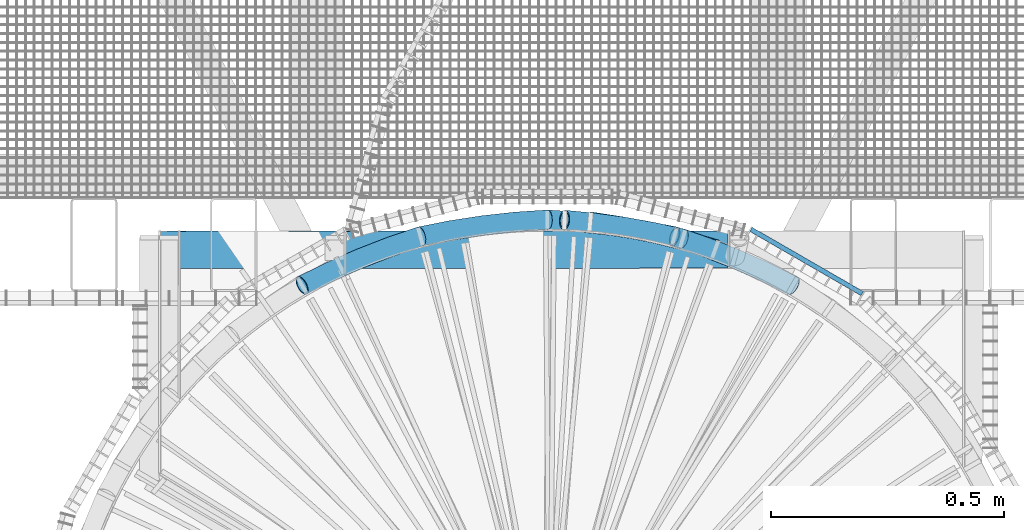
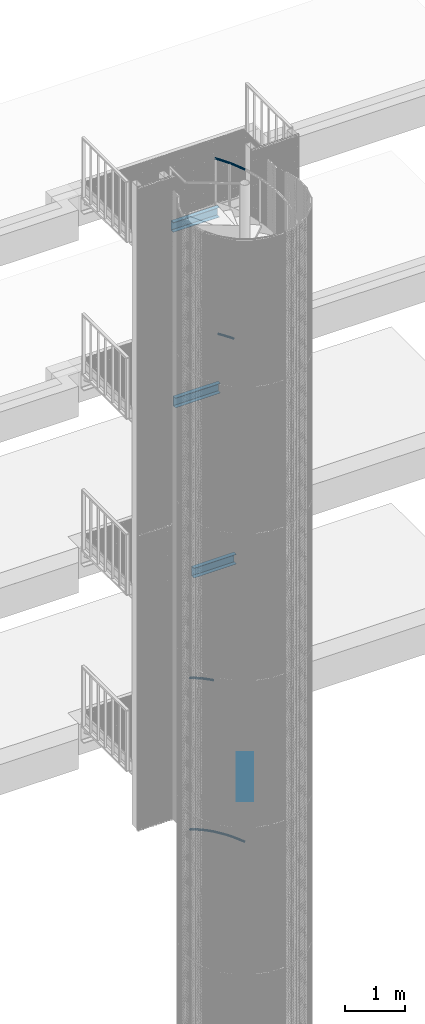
# One storey, part 318 of 1148: 37 beams, 9 members, 13 elements without a shape of their own.
"""IFC2X3 building model written with IfcOpenShell, lengths in millimetres."""

from ifc_helpers import new_model, entity, si_unit, frame, origin_with_axes, origin_2d_with_axis, place, context, subcontext, project, spatial, rectangle, u_section, extrude, material, type_object, element, aggregate, save


model = new_model("IFC2X3")

# Units and contexts
model_context = context("Model", 3, precision=1e-05, world=origin_with_axes())
body_context = subcontext(model_context, "Body", "Model", "MODEL_VIEW")
ifc_project = project(units=[si_unit("LENGTHUNIT", "METRE", prefix="MILLI"), si_unit("AREAUNIT", "SQUARE_METRE"), si_unit("VOLUMEUNIT", "CUBIC_METRE"), si_unit("MASSUNIT", "GRAM", prefix="KILO"), si_unit("TIMEUNIT", "SECOND"), si_unit("PLANEANGLEUNIT", "RADIAN"), si_unit("SOLIDANGLEUNIT", "STERADIAN"), si_unit("THERMODYNAMICTEMPERATUREUNIT", "DEGREE_CELSIUS"), si_unit("LUMINOUSINTENSITYUNIT", "LUMEN")], contexts=[model_context])

# Site, building, storey
site_placement = place(None, origin_with_axes())
site = spatial("IfcSite", under=ifc_project, at=site_placement, Name="Undefined", CompositionType="ELEMENT")
building_placement = place(site_placement, origin_with_axes())
building = spatial("IfcBuilding", under=site, at=building_placement, Name="Undefined", CompositionType="ELEMENT")
storey_placement = place(building_placement, origin_with_axes())
storey = spatial("IfcBuildingStorey", under=building, at=storey_placement, Name="Undefined", CompositionType="ELEMENT", Elevation=0.0)

# Assembly, beams
assembly_1_placement = place(storey_placement, origin_with_axes())
assembly_1 = element("IfcElementAssembly", 1, at=assembly_1_placement, inside=storey, Name="BORDURE", AssemblyPlace="NOTDEFINED", PredefinedType="NOTDEFINED")
ifc_material_1 = material(Name="STEEL/S235JR")
beam_type_1 = type_object("IfcBeamType", Name="PL2*10", PredefinedType="NOTDEFINED")
beam_1_placement = place(assembly_1_placement, frame((676.248044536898, 895.303964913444, 5970.0), z_axis=(0.49999999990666, 0.866025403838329, 0.0), x_axis=(-0.866025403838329, 0.499999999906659, 0.0)))
beam_1 = element("IfcBeam", 2, at=beam_1_placement, type_object=beam_type_1, material=ifc_material_1, Name="ENTRETOISE", context=body_context, shape_type="SweptSolid", body=[
    extrude(rectangle(XDim=2.0, YDim=10.0, at=origin_2d_with_axis()), frame((275.999999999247, 9.09494701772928e-13, 1.53210777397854e-14), z_axis=(-1.0, 0.0, 0.0), x_axis=(0.0, -1.0, 0.0)), (0.0, 0.0, 1.0), 276.0),
])
beam_2_placement = place(assembly_1_placement, frame((676.248044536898, 895.303964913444, 5940.0), z_axis=(0.49999999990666, 0.866025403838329, 0.0), x_axis=(-0.866025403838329, 0.499999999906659, 0.0)))
beam_2 = element("IfcBeam", 3, at=beam_2_placement, type_object=beam_type_1, material=ifc_material_1, Name="ENTRETOISE", context=body_context, shape_type="SweptSolid", body=[
    extrude(rectangle(XDim=2.0, YDim=10.0, at=origin_2d_with_axis()), frame((275.999999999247, 9.09494701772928e-13, 1.53210777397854e-14), z_axis=(-1.0, 0.0, 0.0), x_axis=(0.0, -1.0, 0.0)), (0.0, 0.0, 1.0), 276.0),
])
beam_3_placement = place(assembly_1_placement, frame((676.248044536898, 895.303964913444, 5910.0), z_axis=(0.49999999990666, 0.866025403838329, 0.0), x_axis=(-0.866025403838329, 0.499999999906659, 0.0)))
beam_3 = element("IfcBeam", 4, at=beam_3_placement, type_object=beam_type_1, material=ifc_material_1, Name="ENTRETOISE", context=body_context, shape_type="SweptSolid", body=[
    extrude(rectangle(XDim=2.0, YDim=10.0, at=origin_2d_with_axis()), frame((275.999999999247, 9.09494701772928e-13, 1.53210777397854e-14), z_axis=(-1.0, 0.0, 0.0), x_axis=(0.0, -1.0, 0.0)), (0.0, 0.0, 1.0), 276.0),
])
beam_4_placement = place(assembly_1_placement, frame((676.248044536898, 895.303964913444, 5880.0), z_axis=(0.49999999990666, 0.866025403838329, 0.0), x_axis=(-0.866025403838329, 0.499999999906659, 0.0)))
beam_4 = element("IfcBeam", 5, at=beam_4_placement, type_object=beam_type_1, material=ifc_material_1, Name="ENTRETOISE", context=body_context, shape_type="SweptSolid", body=[
    extrude(rectangle(XDim=2.0, YDim=10.0, at=origin_2d_with_axis()), frame((275.999999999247, 9.09494701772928e-13, 1.53210777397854e-14), z_axis=(-1.0, 0.0, 0.0), x_axis=(0.0, -1.0, 0.0)), (0.0, 0.0, 1.0), 276.0),
])
beam_5_placement = place(assembly_1_placement, frame((676.248044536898, 895.303964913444, 5850.0), z_axis=(0.49999999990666, 0.866025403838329, 0.0), x_axis=(-0.866025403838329, 0.499999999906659, 0.0)))
beam_5 = element("IfcBeam", 6, at=beam_5_placement, type_object=beam_type_1, material=ifc_material_1, Name="ENTRETOISE", context=body_context, shape_type="SweptSolid", body=[
    extrude(rectangle(XDim=2.0, YDim=10.0, at=origin_2d_with_axis()), frame((275.999999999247, 9.09494701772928e-13, 1.53210777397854e-14), z_axis=(-1.0, 0.0, 0.0), x_axis=(0.0, -1.0, 0.0)), (0.0, 0.0, 1.0), 276.0),
])
beam_6_placement = place(assembly_1_placement, frame((676.248044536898, 895.303964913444, 5820.0), z_axis=(0.49999999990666, 0.866025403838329, 0.0), x_axis=(-0.866025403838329, 0.499999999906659, 0.0)))
beam_6 = element("IfcBeam", 7, at=beam_6_placement, type_object=beam_type_1, material=ifc_material_1, Name="ENTRETOISE", context=body_context, shape_type="SweptSolid", body=[
    extrude(rectangle(XDim=2.0, YDim=10.0, at=origin_2d_with_axis()), frame((275.999999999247, 9.09494701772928e-13, 1.53210777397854e-14), z_axis=(-1.0, 0.0, 0.0), x_axis=(0.0, -1.0, 0.0)), (0.0, 0.0, 1.0), 276.0),
])
beam_7_placement = place(assembly_1_placement, frame((676.248044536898, 895.303964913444, 5790.0), z_axis=(0.49999999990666, 0.866025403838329, 0.0), x_axis=(-0.866025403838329, 0.499999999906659, 0.0)))
beam_7 = element("IfcBeam", 8, at=beam_7_placement, type_object=beam_type_1, material=ifc_material_1, Name="ENTRETOISE", context=body_context, shape_type="SweptSolid", body=[
    extrude(rectangle(XDim=2.0, YDim=10.0, at=origin_2d_with_axis()), frame((275.999999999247, 9.09494701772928e-13, 1.53210777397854e-14), z_axis=(-1.0, 0.0, 0.0), x_axis=(0.0, -1.0, 0.0)), (0.0, 0.0, 1.0), 276.0),
])
beam_8_placement = place(assembly_1_placement, frame((676.248044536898, 895.303964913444, 5760.0), z_axis=(0.49999999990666, 0.866025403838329, 0.0), x_axis=(-0.866025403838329, 0.499999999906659, 0.0)))
beam_8 = element("IfcBeam", 9, at=beam_8_placement, type_object=beam_type_1, material=ifc_material_1, Name="ENTRETOISE", context=body_context, shape_type="SweptSolid", body=[
    extrude(rectangle(XDim=2.0, YDim=10.0, at=origin_2d_with_axis()), frame((275.999999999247, 9.09494701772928e-13, 1.53210777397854e-14), z_axis=(-1.0, 0.0, 0.0), x_axis=(0.0, -1.0, 0.0)), (0.0, 0.0, 1.0), 276.0),
])
beam_9_placement = place(assembly_1_placement, frame((676.248044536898, 895.303964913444, 5730.0), z_axis=(0.49999999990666, 0.866025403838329, 0.0), x_axis=(-0.866025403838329, 0.499999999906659, 0.0)))
beam_9 = element("IfcBeam", 10, at=beam_9_placement, type_object=beam_type_1, material=ifc_material_1, Name="ENTRETOISE", context=body_context, shape_type="SweptSolid", body=[
    extrude(rectangle(XDim=2.0, YDim=10.0, at=origin_2d_with_axis()), frame((275.999999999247, 9.09494701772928e-13, 1.53210777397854e-14), z_axis=(-1.0, 0.0, 0.0), x_axis=(0.0, -1.0, 0.0)), (0.0, 0.0, 1.0), 276.0),
])
beam_10_placement = place(assembly_1_placement, frame((676.248044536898, 895.303964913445, 5700.0), z_axis=(0.49999999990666, 0.866025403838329, 0.0), x_axis=(-0.866025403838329, 0.499999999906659, 0.0)))
beam_10 = element("IfcBeam", 11, at=beam_10_placement, type_object=beam_type_1, material=ifc_material_1, Name="ENTRETOISE", context=body_context, shape_type="SweptSolid", body=[
    extrude(rectangle(XDim=2.0, YDim=10.0, at=origin_2d_with_axis()), frame((275.999999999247, 9.09494701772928e-13, 1.53210777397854e-14), z_axis=(-1.0, 0.0, 0.0), x_axis=(0.0, -1.0, 0.0)), (0.0, 0.0, 1.0), 276.0),
])
beam_11_placement = place(assembly_1_placement, frame((676.248044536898, 895.303964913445, 5670.0), z_axis=(0.49999999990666, 0.866025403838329, 0.0), x_axis=(-0.866025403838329, 0.499999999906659, 0.0)))
beam_11 = element("IfcBeam", 12, at=beam_11_placement, type_object=beam_type_1, material=ifc_material_1, Name="ENTRETOISE", context=body_context, shape_type="SweptSolid", body=[
    extrude(rectangle(XDim=2.0, YDim=10.0, at=origin_2d_with_axis()), frame((275.999999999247, 9.09494701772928e-13, 1.53210777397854e-14), z_axis=(-1.0, 0.0, 0.0), x_axis=(0.0, -1.0, 0.0)), (0.0, 0.0, 1.0), 276.0),
])
beam_12_placement = place(assembly_1_placement, frame((676.248044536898, 895.303964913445, 5640.0), z_axis=(0.49999999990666, 0.866025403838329, 0.0), x_axis=(-0.866025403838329, 0.499999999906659, 0.0)))
beam_12 = element("IfcBeam", 13, at=beam_12_placement, type_object=beam_type_1, material=ifc_material_1, Name="ENTRETOISE", context=body_context, shape_type="SweptSolid", body=[
    extrude(rectangle(XDim=2.0, YDim=10.0, at=origin_2d_with_axis()), frame((275.999999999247, 9.09494701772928e-13, 1.53210777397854e-14), z_axis=(-1.0, 0.0, 0.0), x_axis=(0.0, -1.0, 0.0)), (0.0, 0.0, 1.0), 276.0),
])
beam_13_placement = place(assembly_1_placement, frame((676.248044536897, 895.303964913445, 5610.0), z_axis=(0.49999999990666, 0.866025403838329, 0.0), x_axis=(-0.866025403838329, 0.499999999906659, 0.0)))
beam_13 = element("IfcBeam", 14, at=beam_13_placement, type_object=beam_type_1, material=ifc_material_1, Name="ENTRETOISE", context=body_context, shape_type="SweptSolid", body=[
    extrude(rectangle(XDim=2.0, YDim=10.0, at=origin_2d_with_axis()), frame((275.999999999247, 9.09494701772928e-13, 1.53210777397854e-14), z_axis=(-1.0, 0.0, 0.0), x_axis=(0.0, -1.0, 0.0)), (0.0, 0.0, 1.0), 276.0),
])
beam_14_placement = place(assembly_1_placement, frame((676.248044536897, 895.303964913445, 5580.0), z_axis=(0.49999999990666, 0.866025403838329, 0.0), x_axis=(-0.866025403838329, 0.499999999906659, 0.0)))
beam_14 = element("IfcBeam", 15, at=beam_14_placement, type_object=beam_type_1, material=ifc_material_1, Name="ENTRETOISE", context=body_context, shape_type="SweptSolid", body=[
    extrude(rectangle(XDim=2.0, YDim=10.0, at=origin_2d_with_axis()), frame((275.999999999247, 9.09494701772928e-13, 1.53210777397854e-14), z_axis=(-1.0, 0.0, 0.0), x_axis=(0.0, -1.0, 0.0)), (0.0, 0.0, 1.0), 276.0),
])
beam_15_placement = place(assembly_1_placement, frame((676.248044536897, 895.303964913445, 5550.0), z_axis=(0.49999999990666, 0.866025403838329, 0.0), x_axis=(-0.866025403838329, 0.499999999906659, 0.0)))
beam_15 = element("IfcBeam", 16, at=beam_15_placement, type_object=beam_type_1, material=ifc_material_1, Name="ENTRETOISE", context=body_context, shape_type="SweptSolid", body=[
    extrude(rectangle(XDim=2.0, YDim=10.0, at=origin_2d_with_axis()), frame((275.999999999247, 9.09494701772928e-13, 1.53210777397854e-14), z_axis=(-1.0, 0.0, 0.0), x_axis=(0.0, -1.0, 0.0)), (0.0, 0.0, 1.0), 276.0),
])
beam_16_placement = place(assembly_1_placement, frame((676.248044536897, 895.303964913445, 5520.0), z_axis=(0.49999999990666, 0.866025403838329, 0.0), x_axis=(-0.866025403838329, 0.499999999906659, 0.0)))
beam_16 = element("IfcBeam", 17, at=beam_16_placement, type_object=beam_type_1, material=ifc_material_1, Name="ENTRETOISE", context=body_context, shape_type="SweptSolid", body=[
    extrude(rectangle(XDim=2.0, YDim=10.0, at=origin_2d_with_axis()), frame((275.999999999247, 9.09494701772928e-13, 1.53210777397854e-14), z_axis=(-1.0, 0.0, 0.0), x_axis=(0.0, -1.0, 0.0)), (0.0, 0.0, 1.0), 276.0),
])
beam_17_placement = place(assembly_1_placement, frame((676.248044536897, 895.303964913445, 5490.0), z_axis=(0.49999999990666, 0.866025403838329, 0.0), x_axis=(-0.866025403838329, 0.499999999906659, 0.0)))
beam_17 = element("IfcBeam", 18, at=beam_17_placement, type_object=beam_type_1, material=ifc_material_1, Name="ENTRETOISE", context=body_context, shape_type="SweptSolid", body=[
    extrude(rectangle(XDim=2.0, YDim=10.0, at=origin_2d_with_axis()), frame((275.999999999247, 9.09494701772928e-13, 1.53210777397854e-14), z_axis=(-1.0, 0.0, 0.0), x_axis=(0.0, -1.0, 0.0)), (0.0, 0.0, 1.0), 276.0),
])
beam_18_placement = place(assembly_1_placement, frame((676.248044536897, 895.303964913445, 5460.0), z_axis=(0.49999999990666, 0.866025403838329, 0.0), x_axis=(-0.866025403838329, 0.499999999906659, 0.0)))
beam_18 = element("IfcBeam", 19, at=beam_18_placement, type_object=beam_type_1, material=ifc_material_1, Name="ENTRETOISE", context=body_context, shape_type="SweptSolid", body=[
    extrude(rectangle(XDim=2.0, YDim=10.0, at=origin_2d_with_axis()), frame((275.999999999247, 9.09494701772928e-13, 1.53210777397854e-14), z_axis=(-1.0, 0.0, 0.0), x_axis=(0.0, -1.0, 0.0)), (0.0, 0.0, 1.0), 276.0),
])
beam_19_placement = place(assembly_1_placement, frame((676.248044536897, 895.303964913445, 5430.0), z_axis=(0.49999999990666, 0.866025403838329, 0.0), x_axis=(-0.866025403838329, 0.499999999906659, 0.0)))
beam_19 = element("IfcBeam", 20, at=beam_19_placement, type_object=beam_type_1, material=ifc_material_1, Name="ENTRETOISE", context=body_context, shape_type="SweptSolid", body=[
    extrude(rectangle(XDim=2.0, YDim=10.0, at=origin_2d_with_axis()), frame((275.999999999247, 9.09494701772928e-13, 1.53210777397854e-14), z_axis=(-1.0, 0.0, 0.0), x_axis=(0.0, -1.0, 0.0)), (0.0, 0.0, 1.0), 276.0),
])
beam_20_placement = place(assembly_1_placement, frame((676.248044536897, 895.303964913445, 5400.0), z_axis=(0.49999999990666, 0.866025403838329, 0.0), x_axis=(-0.866025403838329, 0.499999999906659, 0.0)))
beam_20 = element("IfcBeam", 21, at=beam_20_placement, type_object=beam_type_1, material=ifc_material_1, Name="ENTRETOISE", context=body_context, shape_type="SweptSolid", body=[
    extrude(rectangle(XDim=2.0, YDim=10.0, at=origin_2d_with_axis()), frame((275.999999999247, 9.09494701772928e-13, 1.53210777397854e-14), z_axis=(-1.0, 0.0, 0.0), x_axis=(0.0, -1.0, 0.0)), (0.0, 0.0, 1.0), 276.0),
])
beam_21_placement = place(assembly_1_placement, frame((676.248044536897, 895.303964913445, 5370.0), z_axis=(0.49999999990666, 0.866025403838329, 0.0), x_axis=(-0.866025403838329, 0.499999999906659, 0.0)))
beam_21 = element("IfcBeam", 22, at=beam_21_placement, type_object=beam_type_1, material=ifc_material_1, Name="ENTRETOISE", context=body_context, shape_type="SweptSolid", body=[
    extrude(rectangle(XDim=2.0, YDim=10.0, at=origin_2d_with_axis()), frame((275.999999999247, 9.09494701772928e-13, 1.53210777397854e-14), z_axis=(-1.0, 0.0, 0.0), x_axis=(0.0, -1.0, 0.0)), (0.0, 0.0, 1.0), 276.0),
])
beam_22_placement = place(assembly_1_placement, frame((676.248044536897, 895.303964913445, 5340.0), z_axis=(0.49999999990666, 0.866025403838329, 0.0), x_axis=(-0.866025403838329, 0.499999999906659, 0.0)))
beam_22 = element("IfcBeam", 23, at=beam_22_placement, type_object=beam_type_1, material=ifc_material_1, Name="ENTRETOISE", context=body_context, shape_type="SweptSolid", body=[
    extrude(rectangle(XDim=2.0, YDim=10.0, at=origin_2d_with_axis()), frame((275.999999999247, 9.09494701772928e-13, 1.53210777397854e-14), z_axis=(-1.0, 0.0, 0.0), x_axis=(0.0, -1.0, 0.0)), (0.0, 0.0, 1.0), 276.0),
])
beam_23_placement = place(assembly_1_placement, frame((676.248044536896, 895.303964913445, 5310.0), z_axis=(0.49999999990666, 0.866025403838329, 0.0), x_axis=(-0.866025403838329, 0.499999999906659, 0.0)))
beam_23 = element("IfcBeam", 24, at=beam_23_placement, type_object=beam_type_1, material=ifc_material_1, Name="ENTRETOISE", context=body_context, shape_type="SweptSolid", body=[
    extrude(rectangle(XDim=2.0, YDim=10.0, at=origin_2d_with_axis()), frame((275.999999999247, 9.09494701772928e-13, 1.53210777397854e-14), z_axis=(-1.0, 0.0, 0.0), x_axis=(0.0, -1.0, 0.0)), (0.0, 0.0, 1.0), 276.0),
])
beam_24_placement = place(assembly_1_placement, frame((676.248044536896, 895.303964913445, 5280.0), z_axis=(0.49999999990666, 0.866025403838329, 0.0), x_axis=(-0.866025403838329, 0.499999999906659, 0.0)))
beam_24 = element("IfcBeam", 25, at=beam_24_placement, type_object=beam_type_1, material=ifc_material_1, Name="ENTRETOISE", context=body_context, shape_type="SweptSolid", body=[
    extrude(rectangle(XDim=2.0, YDim=10.0, at=origin_2d_with_axis()), frame((275.999999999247, 9.09494701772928e-13, 1.53210777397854e-14), z_axis=(-1.0, 0.0, 0.0), x_axis=(0.0, -1.0, 0.0)), (0.0, 0.0, 1.0), 276.0),
])
beam_25_placement = place(assembly_1_placement, frame((676.248044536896, 895.303964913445, 5250.0), z_axis=(0.49999999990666, 0.866025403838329, 0.0), x_axis=(-0.866025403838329, 0.499999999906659, 0.0)))
beam_25 = element("IfcBeam", 26, at=beam_25_placement, type_object=beam_type_1, material=ifc_material_1, Name="ENTRETOISE", context=body_context, shape_type="SweptSolid", body=[
    extrude(rectangle(XDim=2.0, YDim=10.0, at=origin_2d_with_axis()), frame((275.999999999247, 9.09494701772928e-13, 1.53210777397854e-14), z_axis=(-1.0, 0.0, 0.0), x_axis=(0.0, -1.0, 0.0)), (0.0, 0.0, 1.0), 276.0),
])
beam_26_placement = place(assembly_1_placement, frame((676.248044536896, 895.303964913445, 5220.0), z_axis=(0.49999999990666, 0.866025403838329, 0.0), x_axis=(-0.866025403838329, 0.499999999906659, 0.0)))
beam_26 = element("IfcBeam", 27, at=beam_26_placement, type_object=beam_type_1, material=ifc_material_1, Name="ENTRETOISE", context=body_context, shape_type="SweptSolid", body=[
    extrude(rectangle(XDim=2.0, YDim=10.0, at=origin_2d_with_axis()), frame((275.999999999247, 9.09494701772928e-13, 1.53210777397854e-14), z_axis=(-1.0, 0.0, 0.0), x_axis=(0.0, -1.0, 0.0)), (0.0, 0.0, 1.0), 276.0),
])
beam_27_placement = place(assembly_1_placement, frame((676.248044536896, 895.303964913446, 5190.0), z_axis=(0.49999999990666, 0.866025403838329, 0.0), x_axis=(-0.866025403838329, 0.499999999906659, 0.0)))
beam_27 = element("IfcBeam", 28, at=beam_27_placement, type_object=beam_type_1, material=ifc_material_1, Name="ENTRETOISE", context=body_context, shape_type="SweptSolid", body=[
    extrude(rectangle(XDim=2.0, YDim=10.0, at=origin_2d_with_axis()), frame((275.999999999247, 9.09494701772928e-13, 1.53210777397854e-14), z_axis=(-1.0, 0.0, 0.0), x_axis=(0.0, -1.0, 0.0)), (0.0, 0.0, 1.0), 276.0),
])
beam_28_placement = place(assembly_1_placement, frame((676.248044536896, 895.303964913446, 5160.0), z_axis=(0.49999999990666, 0.866025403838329, 0.0), x_axis=(-0.866025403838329, 0.499999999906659, 0.0)))
beam_28 = element("IfcBeam", 29, at=beam_28_placement, type_object=beam_type_1, material=ifc_material_1, Name="ENTRETOISE", context=body_context, shape_type="SweptSolid", body=[
    extrude(rectangle(XDim=2.0, YDim=10.0, at=origin_2d_with_axis()), frame((275.999999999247, 9.09494701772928e-13, 1.53210777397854e-14), z_axis=(-1.0, 0.0, 0.0), x_axis=(0.0, -1.0, 0.0)), (0.0, 0.0, 1.0), 276.0),
])
beam_29_placement = place(assembly_1_placement, frame((676.248044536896, 895.303964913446, 5130.0), z_axis=(0.49999999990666, 0.866025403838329, 0.0), x_axis=(-0.866025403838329, 0.499999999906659, 0.0)))
beam_29 = element("IfcBeam", 30, at=beam_29_placement, type_object=beam_type_1, material=ifc_material_1, Name="ENTRETOISE", context=body_context, shape_type="SweptSolid", body=[
    extrude(rectangle(XDim=2.0, YDim=10.0, at=origin_2d_with_axis()), frame((275.999999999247, 9.09494701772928e-13, 1.53210777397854e-14), z_axis=(-1.0, 0.0, 0.0), x_axis=(0.0, -1.0, 0.0)), (0.0, 0.0, 1.0), 276.0),
])
beam_30_placement = place(assembly_1_placement, frame((676.248044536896, 895.303964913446, 5100.0), z_axis=(0.49999999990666, 0.866025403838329, 0.0), x_axis=(-0.866025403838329, 0.499999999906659, 0.0)))
beam_30 = element("IfcBeam", 31, at=beam_30_placement, type_object=beam_type_1, material=ifc_material_1, Name="ENTRETOISE", context=body_context, shape_type="SweptSolid", body=[
    extrude(rectangle(XDim=2.0, YDim=10.0, at=origin_2d_with_axis()), frame((275.999999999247, 9.09494701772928e-13, 1.53210777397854e-14), z_axis=(-1.0, 0.0, 0.0), x_axis=(0.0, -1.0, 0.0)), (0.0, 0.0, 1.0), 276.0),
])
beam_31_placement = place(assembly_1_placement, frame((676.248044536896, 895.303964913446, 5070.0), z_axis=(0.49999999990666, 0.866025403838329, 0.0), x_axis=(-0.866025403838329, 0.499999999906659, 0.0)))
beam_31 = element("IfcBeam", 32, at=beam_31_placement, type_object=beam_type_1, material=ifc_material_1, Name="ENTRETOISE", context=body_context, shape_type="SweptSolid", body=[
    extrude(rectangle(XDim=2.0, YDim=10.0, at=origin_2d_with_axis()), frame((275.999999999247, 9.09494701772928e-13, 1.53210777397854e-14), z_axis=(-1.0, 0.0, 0.0), x_axis=(0.0, -1.0, 0.0)), (0.0, 0.0, 1.0), 276.0),
])
beam_32_placement = place(assembly_1_placement, frame((676.248044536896, 895.303964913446, 5040.0), z_axis=(0.49999999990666, 0.866025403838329, 0.0), x_axis=(-0.866025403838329, 0.499999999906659, 0.0)))
beam_32 = element("IfcBeam", 33, at=beam_32_placement, type_object=beam_type_1, material=ifc_material_1, Name="ENTRETOISE", context=body_context, shape_type="SweptSolid", body=[
    extrude(rectangle(XDim=2.0, YDim=10.0, at=origin_2d_with_axis()), frame((275.999999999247, 9.09494701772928e-13, 1.53210777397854e-14), z_axis=(-1.0, 0.0, 0.0), x_axis=(0.0, -1.0, 0.0)), (0.0, 0.0, 1.0), 276.0),
])
beam_33_placement = place(assembly_1_placement, frame((676.248044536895, 895.303964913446, 5010.0), z_axis=(0.49999999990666, 0.866025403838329, 0.0), x_axis=(-0.866025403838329, 0.499999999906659, 0.0)))
beam_33 = element("IfcBeam", 34, at=beam_33_placement, type_object=beam_type_1, material=ifc_material_1, Name="ENTRETOISE", context=body_context, shape_type="SweptSolid", body=[
    extrude(rectangle(XDim=2.0, YDim=10.0, at=origin_2d_with_axis()), frame((275.999999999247, 9.09494701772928e-13, 1.53210777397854e-14), z_axis=(-1.0, 0.0, 0.0), x_axis=(0.0, -1.0, 0.0)), (0.0, 0.0, 1.0), 276.0),
])
beam_34_placement = place(assembly_1_placement, frame((676.248044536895, 895.303964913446, 4980.0), z_axis=(0.49999999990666, 0.866025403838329, 0.0), x_axis=(-0.866025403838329, 0.499999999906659, 0.0)))
beam_34 = element("IfcBeam", 35, at=beam_34_placement, type_object=beam_type_1, material=ifc_material_1, Name="ENTRETOISE", context=body_context, shape_type="SweptSolid", body=[
    extrude(rectangle(XDim=2.0, YDim=10.0, at=origin_2d_with_axis()), frame((275.999999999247, 9.09494701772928e-13, 1.53210777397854e-14), z_axis=(-1.0, 0.0, 0.0), x_axis=(0.0, -1.0, 0.0)), (0.0, 0.0, 1.0), 276.0),
])
aggregate(assembly_1, [beam_1, beam_2, beam_3, beam_4, beam_5, beam_6, beam_7, beam_8, beam_9, beam_10, beam_11, beam_12, beam_13, beam_14, beam_15, beam_16, beam_17, beam_18, beam_19, beam_20, beam_21, beam_22, beam_23, beam_24, beam_25, beam_26, beam_27, beam_28, beam_29, beam_30, beam_31, beam_32, beam_33, beam_34])

# Assembly, member
assembly_2_placement = place(storey_placement, origin_with_axes())
assembly_2 = element("IfcElementAssembly", 36, at=assembly_2_placement, inside=storey, Name="MONTANT", AssemblyPlace="NOTDEFINED", PredefinedType="NOTDEFINED")
member_type = type_object("IfcMemberType", Name="TUBE-42.4*3.2", PredefinedType="NOTDEFINED")
member_1_placement = place(assembly_2_placement, frame((-272.795273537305, 1018.08582090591, 4653.96000000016), z_axis=(-0.382683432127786, 0.923879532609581, -1.50204414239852e-10), x_axis=(-0.805545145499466, -0.333667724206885, 0.489655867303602)))
member_1 = element("IfcMember", 37, at=member_1_placement, type_object=member_type, material=ifc_material_1, Name="MAIN_COURANTE", context=body_context, shape_type="SweptSolid", body=[
    entity("IfcRevolvedAreaSolid", entity("IfcCircleHollowProfileDef", "AREA", None, entity("IfcAxis2Placement2D", entity("IfcCartesianPoint", [0.0, 0.0]), entity("IfcDirection", [1.0, 0.0])), 21.200000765, 3.200000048), entity("IfcAxis2Placement3D", entity("IfcCartesianPoint", [315.568566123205, -9.09494701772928e-13, -1.31255851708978e-15]), entity("IfcDirection", [-0.997194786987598, -4.44488503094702e-18, 0.0748502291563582]), entity("IfcDirection", [0.0, -1.0, 0.0])), entity("IfcAxis1Placement", entity("IfcCartesianPoint", [0.0, -2108.0, 0.0]), entity("IfcDirection", [1.0, 0.0, 0.0])), 0.149840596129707),
])
aggregate(assembly_2, [member_1])

assembly_3_placement = place(storey_placement, origin_with_axes())
assembly_3 = element("IfcElementAssembly", 38, at=assembly_3_placement, inside=storey, Name="MONTANT", AssemblyPlace="NOTDEFINED", PredefinedType="NOTDEFINED")
member_2_placement = place(assembly_3_placement, frame((-3.90627974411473e-10, 1054.00000001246, 4499.44000000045), z_axis=(-0.130526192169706, 0.991444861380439, -6.66022970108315e-11), x_axis=(-0.864456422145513, -0.113807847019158, 0.489655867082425)))
member_2 = element("IfcMember", 39, at=member_2_placement, type_object=member_type, material=ifc_material_1, Name="MAIN_COURANTE", context=body_context, shape_type="SweptSolid", body=[
    entity("IfcRevolvedAreaSolid", entity("IfcCircleHollowProfileDef", "AREA", None, entity("IfcAxis2Placement2D", entity("IfcCartesianPoint", [0.0, 0.0]), entity("IfcDirection", [1.0, 0.0])), 21.200000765, 3.200000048), entity("IfcAxis2Placement3D", entity("IfcCartesianPoint", [315.568566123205, -9.09494701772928e-13, -1.31255851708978e-15]), entity("IfcDirection", [-0.997194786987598, -4.44488503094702e-18, 0.0748502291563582]), entity("IfcDirection", [0.0, -1.0, 0.0])), entity("IfcAxis1Placement", entity("IfcCartesianPoint", [0.0, -2108.0, 0.0]), entity("IfcDirection", [1.0, 0.0, 0.0])), 0.149840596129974),
])
aggregate(assembly_3, [member_2])

assembly_4_placement = place(storey_placement, origin_with_axes())
assembly_4 = element("IfcElementAssembly", 40, at=assembly_4_placement, inside=storey, Name="MONTANT", AssemblyPlace="NOTDEFINED", PredefinedType="NOTDEFINED")
member_3_placement = place(assembly_4_placement, frame((272.795273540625, 1018.08582091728, 4344.91999999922), z_axis=(0.130526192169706, 0.991444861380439, 6.66022970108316e-11), x_axis=(-0.864456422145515, 0.113807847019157, 0.489655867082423)))
member_3 = element("IfcMember", 41, at=member_3_placement, type_object=member_type, material=ifc_material_1, Name="MAIN_COURANTE", context=body_context, shape_type="SweptSolid", body=[
    entity("IfcRevolvedAreaSolid", entity("IfcCircleHollowProfileDef", "AREA", None, entity("IfcAxis2Placement2D", entity("IfcCartesianPoint", [0.0, 0.0]), entity("IfcDirection", [1.0, 0.0])), 21.200000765, 3.200000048), entity("IfcAxis2Placement3D", entity("IfcCartesianPoint", [315.568566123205, -9.09494701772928e-13, -1.31255851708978e-15]), entity("IfcDirection", [-0.997194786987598, -4.44488503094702e-18, 0.0748502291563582]), entity("IfcDirection", [0.0, -1.0, 0.0])), entity("IfcAxis1Placement", entity("IfcCartesianPoint", [0.0, -2108.0, 0.0]), entity("IfcDirection", [1.0, 0.0, 0.0])), 0.149840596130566),
])
aggregate(assembly_4, [member_3])

assembly_5_placement = place(storey_placement, origin_with_axes())
assembly_5 = element("IfcElementAssembly", 42, at=assembly_5_placement, inside=storey, Name="MONTANT", AssemblyPlace="NOTDEFINED", PredefinedType="NOTDEFINED")
member_4_placement = place(assembly_5_placement, frame((526.999999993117, 912.790775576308, 4190.39999999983), z_axis=(0.382683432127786, 0.923879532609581, 1.50203959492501e-10), x_axis=(-0.805545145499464, 0.333667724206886, 0.489655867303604)))
member_4 = element("IfcMember", 43, at=member_4_placement, type_object=member_type, material=ifc_material_1, Name="MAIN_COURANTE", context=body_context, shape_type="SweptSolid", body=[
    entity("IfcRevolvedAreaSolid", entity("IfcCircleHollowProfileDef", "AREA", None, entity("IfcAxis2Placement2D", entity("IfcCartesianPoint", [0.0, 0.0]), entity("IfcDirection", [1.0, 0.0])), 21.200000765, 3.200000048), entity("IfcAxis2Placement3D", entity("IfcCartesianPoint", [315.568566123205, -9.09494701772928e-13, -1.31255851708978e-15]), entity("IfcDirection", [-0.997194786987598, -4.44488503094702e-18, 0.0748502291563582]), entity("IfcDirection", [0.0, -1.0, 0.0])), entity("IfcAxis1Placement", entity("IfcCartesianPoint", [0.0, -2108.0, 0.0]), entity("IfcDirection", [1.0, 0.0, 0.0])), 0.149840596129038),
])
aggregate(assembly_5, [member_4])

assembly_6_placement = place(storey_placement, origin_with_axes())
assembly_6 = element("IfcElementAssembly", 44, at=assembly_6_placement, inside=storey, Name="MONTANT", AssemblyPlace="NOTDEFINED", PredefinedType="NOTDEFINED")
member_5_placement = place(assembly_6_placement, frame((360.48923106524, 990.436022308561, 14476.9200000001), z_axis=(0.216439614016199, 0.97629600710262, 3.63797880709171e-12), x_axis=(-0.848601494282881, 0.188130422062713, 0.494451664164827)))
member_5 = element("IfcMember", 45, at=member_5_placement, type_object=member_type, material=ifc_material_1, Name="MAIN_COURANTE", context=body_context, shape_type="SweptSolid", body=[
    entity("IfcRevolvedAreaSolid", entity("IfcCircleHollowProfileDef", "AREA", None, entity("IfcAxis2Placement2D", entity("IfcCartesianPoint", [0.0, 0.0]), entity("IfcDirection", [1.0, 0.0])), 21.200000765, 3.200000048), entity("IfcAxis2Placement3D", entity("IfcCartesianPoint", [316.552681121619, 9.09494701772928e-13, -1.82569453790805e-12]), entity("IfcDirection", [-0.997177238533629, 2.1263748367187e-18, 0.0750836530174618]), entity("IfcDirection", [0.0, -1.0, 0.0])), entity("IfcAxis1Placement", entity("IfcCartesianPoint", [0.0, -2108.0, 0.0]), entity("IfcDirection", [1.0, 0.0, 0.0])), 0.150308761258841),
])
aggregate(assembly_6, [member_5])

assembly_7_placement = place(storey_placement, origin_with_axes())
assembly_7 = element("IfcElementAssembly", 46, at=assembly_7_placement, inside=storey, Name="MONTANT", AssemblyPlace="NOTDEFINED", PredefinedType="NOTDEFINED")
member_6_placement = place(assembly_7_placement, frame((290.52177302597, 1013.16982750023, 18076.9200000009), z_axis=(0.156434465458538, 0.987688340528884, -3.20833350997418e-10), x_axis=(-0.843469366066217, 0.133592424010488, 0.520300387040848)))
member_6 = element("IfcMember", 47, at=member_6_placement, type_object=member_type, material=ifc_material_1, Name="MAIN_COURANTE", context=body_context, shape_type="SweptSolid", body=[
    entity("IfcRevolvedAreaSolid", entity("IfcCircleHollowProfileDef", "AREA", None, entity("IfcAxis2Placement2D", entity("IfcCartesianPoint", [0.0, 0.0]), entity("IfcDirection", [1.0, 0.0])), 21.200000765, 3.200000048), entity("IfcAxis2Placement3D", entity("IfcCartesianPoint", [300.826222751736, 9.26193911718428e-13, -2.55538133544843e-15]), entity("IfcDirection", [-0.997451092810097, -5.56582410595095e-17, 0.0713534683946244]), entity("IfcDirection", [0.0, -1.0, 0.0])), entity("IfcAxis1Placement", entity("IfcCartesianPoint", [0.0, -2108.0, 0.0]), entity("IfcDirection", [1.0, 0.0, 0.0])), 0.142828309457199),
])
aggregate(assembly_7, [member_6])

assembly_8_placement = place(storey_placement, origin_with_axes())
assembly_8 = element("IfcElementAssembly", 48, at=assembly_8_placement, inside=storey, Name="MONTANT", AssemblyPlace="NOTDEFINED", PredefinedType="NOTDEFINED")
member_7_placement = place(assembly_8_placement, frame((527.000000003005, 912.790775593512, 17920.3999999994), z_axis=(0.390731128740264, 0.920504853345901, -3.32816853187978e-10), x_axis=(-0.786095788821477, 0.333677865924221, 0.520300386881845)))
member_7 = element("IfcMember", 49, at=member_7_placement, type_object=member_type, material=ifc_material_1, Name="MAIN_COURANTE", context=body_context, shape_type="SweptSolid", body=[
    entity("IfcRevolvedAreaSolid", entity("IfcCircleHollowProfileDef", "AREA", None, entity("IfcAxis2Placement2D", entity("IfcCartesianPoint", [0.0, 0.0]), entity("IfcDirection", [1.0, 0.0])), 21.200000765, 3.200000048), entity("IfcAxis2Placement3D", entity("IfcCartesianPoint", [300.826222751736, 9.26193911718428e-13, -2.55538133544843e-15]), entity("IfcDirection", [-0.997451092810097, -5.56582410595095e-17, 0.0713534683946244]), entity("IfcDirection", [0.0, -1.0, 0.0])), entity("IfcAxis1Placement", entity("IfcCartesianPoint", [0.0, -2108.0, 0.0]), entity("IfcDirection", [1.0, 0.0, 0.0])), 0.142828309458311),
])
aggregate(assembly_8, [member_7])

assembly_9_placement = place(storey_placement, origin_with_axes())
assembly_9 = element("IfcElementAssembly", 50, at=assembly_9_placement, inside=storey, Name="MONTANT", AssemblyPlace="NOTDEFINED", PredefinedType="NOTDEFINED")
member_8_placement = place(assembly_9_placement, frame((-272.795273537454, 1018.085820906, 7746.52000000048), z_axis=(-0.382683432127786, 0.923879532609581, -1.50204414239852e-10), x_axis=(-0.803040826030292, -0.332630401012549, 0.494451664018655)))
member_8 = element("IfcMember", 51, at=member_8_placement, type_object=member_type, material=ifc_material_1, Name="MAIN_COURANTE", context=body_context, shape_type="SweptSolid", body=[
    entity("IfcRevolvedAreaSolid", entity("IfcCircleHollowProfileDef", "AREA", None, entity("IfcAxis2Placement2D", entity("IfcCartesianPoint", [0.0, 0.0]), entity("IfcDirection", [1.0, 0.0])), 21.200000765, 3.200000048), entity("IfcAxis2Placement3D", entity("IfcCartesianPoint", [316.552681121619, 9.09494701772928e-13, -1.82569453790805e-12]), entity("IfcDirection", [-0.997177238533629, 2.1263748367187e-18, 0.0750836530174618]), entity("IfcDirection", [0.0, -1.0, 0.0])), entity("IfcAxis1Placement", entity("IfcCartesianPoint", [0.0, -2108.0, 0.0]), entity("IfcDirection", [1.0, 0.0, 0.0])), 0.150308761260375),
])
aggregate(assembly_9, [member_8])

assembly_10_placement = place(storey_placement, origin_with_axes())
assembly_10 = element("IfcElementAssembly", 52, at=assembly_10_placement, inside=storey, Name="MONTANT", AssemblyPlace="NOTDEFINED", PredefinedType="NOTDEFINED")
member_9_placement = place(assembly_10_placement, frame((-2.95699464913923e-10, 1054.00000001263, 7590.00000000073), z_axis=(-0.130526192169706, 0.991444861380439, -6.66022970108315e-11), x_axis=(-0.861768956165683, -0.113454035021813, 0.494451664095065)))
member_9 = element("IfcMember", 53, at=member_9_placement, type_object=member_type, material=ifc_material_1, Name="MAIN_COURANTE", context=body_context, shape_type="SweptSolid", body=[
    entity("IfcRevolvedAreaSolid", entity("IfcCircleHollowProfileDef", "AREA", None, entity("IfcAxis2Placement2D", entity("IfcCartesianPoint", [0.0, 0.0]), entity("IfcDirection", [1.0, 0.0])), 21.200000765, 3.200000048), entity("IfcAxis2Placement3D", entity("IfcCartesianPoint", [316.552681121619, 9.09494701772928e-13, -1.82569453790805e-12]), entity("IfcDirection", [-0.997177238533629, 2.1263748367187e-18, 0.0750836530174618]), entity("IfcDirection", [0.0, -1.0, 0.0])), entity("IfcAxis1Placement", entity("IfcCartesianPoint", [0.0, -2108.0, 0.0]), entity("IfcDirection", [1.0, 0.0, 0.0])), 0.150308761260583),
])
aggregate(assembly_10, [member_9])

# Assembly, beam
assembly_11_placement = place(storey_placement, origin_with_axes())
assembly_11 = element("IfcElementAssembly", 54, at=assembly_11_placement, inside=storey, Name="TRAVERSE", AssemblyPlace="NOTDEFINED", PredefinedType="NOTDEFINED")
ifc_material_2 = material(Name="STEEL/S275JR")
beam_type_2 = type_object("IfcBeamType", Name="UPF-200*80*4", PredefinedType="NOTDEFINED")
beam_35_placement = place(assembly_11_placement, frame((61.9635344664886, 990.016164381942, 17185.8400016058), z_axis=(-0.000179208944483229, -1.40999956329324e-07, -0.999999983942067), x_axis=(-0.999999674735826, -0.000786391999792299, 0.000179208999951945)))
beam_35 = element("IfcBeam", 55, at=beam_35_placement, type_object=beam_type_2, material=ifc_material_2, Name="TRAVERSE", context=body_context, shape_type="SweptSolid", body=[
    extrude(u_section(Depth=200.0, FlangeWidth=80.0, WebThickness=4.0, FlangeThickness=4.0, at=origin_2d_with_axis()), frame((892.812628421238, 1.78184733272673e-16, 3.63797880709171e-12), z_axis=(-1.0, 0.0, 0.0), x_axis=(0.0, -1.0, 0.0)), (0.0, 0.0, 1.0), 892.81),
])
aggregate(assembly_11, [beam_35])

assembly_12_placement = place(storey_placement, origin_with_axes())
assembly_12 = element("IfcElementAssembly", 56, at=assembly_12_placement, inside=storey, Name="TRAVERSE", AssemblyPlace="NOTDEFINED", PredefinedType="NOTDEFINED")
beam_36_placement = place(assembly_12_placement, frame((83.0638582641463, 990.016164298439, 13585.8400016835), z_axis=(-0.000183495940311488, -1.47999951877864e-07, -0.999999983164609), x_axis=(-0.9999996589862, -0.000805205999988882, 0.000183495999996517)))
beam_36 = element("IfcBeam", 57, at=beam_36_placement, type_object=beam_type_2, material=ifc_material_2, Name="TRAVERSE", context=body_context, shape_type="SweptSolid", body=[
    extrude(u_section(Depth=200.0, FlangeWidth=80.0, WebThickness=4.0, FlangeThickness=4.0, at=origin_2d_with_axis()), frame((871.952635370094, 8.05073527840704e-17, -1.8190130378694e-12), z_axis=(-1.0, 0.0, 0.0), x_axis=(0.0, -1.0, 0.0)), (0.0, 0.0, 1.0), 871.95),
])
aggregate(assembly_12, [beam_36])

assembly_13_placement = place(storey_placement, origin_with_axes())
assembly_13 = element("IfcElementAssembly", 58, at=assembly_13_placement, inside=storey, Name="TRAVERSE", AssemblyPlace="NOTDEFINED", PredefinedType="NOTDEFINED")
beam_37_placement = place(assembly_13_placement, frame((387.96472907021, 990.016164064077, 9985.84000190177), z_axis=(-0.000195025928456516, -1.66999938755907e-07, -0.999999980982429), x_axis=(-0.99999961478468, -0.000855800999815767, 0.000195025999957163)))
beam_37 = element("IfcBeam", 59, at=beam_37_placement, type_object=beam_type_2, material=ifc_material_2, Name="TRAVERSE", context=body_context, shape_type="SweptSolid", body=[
    extrude(u_section(Depth=200.0, FlangeWidth=80.0, WebThickness=4.0, FlangeThickness=4.0, at=origin_2d_with_axis()), frame((820.402654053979, -2.59776690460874e-17, 0.0), z_axis=(-1.0, 0.0, 0.0), x_axis=(0.0, -1.0, 0.0)), (0.0, 0.0, 1.0), 820.4),
])
aggregate(assembly_13, [beam_37])

save(model, "model.ifc")
